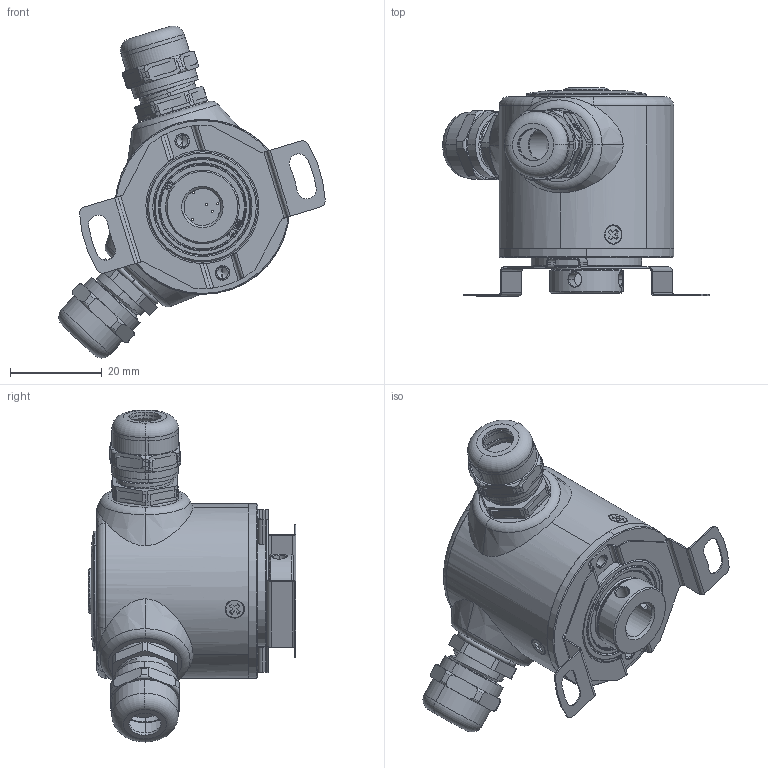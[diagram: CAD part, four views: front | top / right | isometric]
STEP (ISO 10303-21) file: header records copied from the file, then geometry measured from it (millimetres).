
FILE_DESCRIPTION (( 'STEP AP203' ), '1' );
FILE_NAME ('B-ZKT3808.STEP', '2021-07-22T01:38:20', ( 'Windows 蚚誧' ), ( '' ), 'SwSTEP 2.0', 'SolidWorks 2018', '' );
FILE_SCHEMA (( 'CONFIG_CONTROL_DESIGN' ));
Length unit declared in the file: millimetre
Products named in the file (23): B-ZKT3808; 09-10.01-2015; 04-24H8-2017蚾饜-俔褐; 03-38H33_3G-2017蚾饜; 07-10H10-2017; 02-8H45-2017; 03-38H33_3G-2017; 01-38H13_3-2017; M2X5坋趼羞麥芛蹟隊; 湮滅阨脣芛摴1; 6801ZZ; 萇繚啣俋倛芞00000; 防水胶圈1; 46薊諉え1; 06-10.01-2015; 湮滅阨脣芛摴1裔; 05-M2H12.8-2017; 10.50.20啣俋倛; 12-5.01-2017; 51.21.2015啣芞; 大防水插头螺丝帽; 狫瑜360
Assembly tree (29 placements, depth 4):
  B-ZKT3808
    01-38H13_3-2017
    6801ZZ  x2
    46薊諉え1
    05-M2H12.8-2017  x3
    04-24H8-2017蚾饜-俔褐
      12-5.01-2017
      狫瑜360
    07-10H10-2017
    03-38H33_3G-2017蚾饜  x2
      03-38H33_3G-2017
      湮滅阨脣芛摴1
        湮滅阨脣芛摴1
        防水胶圈1
        湮滅阨脣芛摴1裔
      大防水插头螺丝帽
      09-10.01-2015
    02-8H45-2017
    M2X5坋趼羞麥芛蹟隊  x3
    萇繚啣俋倛芞00000
    06-10.01-2015
    10.50.20啣俋倛
    51.21.2015啣芞
    湮滅阨脣芛摴1
      湮滅阨脣芛摴1
      防水胶圈1
      湮滅阨脣芛摴1裔
Bounding box: 57.94 x 45.2 x 72.18 mm (x, y, z)
Volume: 33154.7 mm3; surface area: 53307.6 mm2
Topology: 37 solids, 37 shells, 2331 faces, 6311 edges, 4191 vertices
Faces by surface type: cylinder 1205, plane 575, cone 236, torus 204, sphere 84, bspline 27
Entity records: 58584 total; most frequent: CARTESIAN_POINT 15067, DIRECTION 8832, ORIENTED_EDGE 8420, EDGE_CURVE 4210, AXIS2_PLACEMENT_3D 3510, VERTEX_POINT 2815, EDGE_LOOP 2041, CIRCLE 1891
